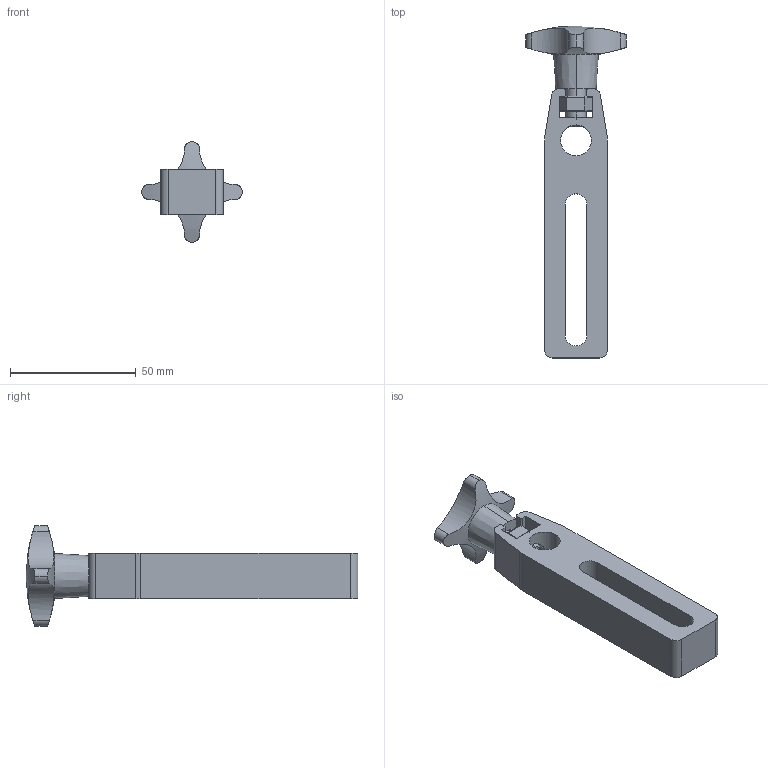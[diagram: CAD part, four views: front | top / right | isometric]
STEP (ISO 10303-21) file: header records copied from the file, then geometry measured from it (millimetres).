
FILE_DESCRIPTION (( 'STEP AP214' ), '1' );
FILE_NAME ('FABER - GH5 5.STEP', '2017-04-06T08:21:47', ( '' ), ( '' ), 'SwSTEP 2.0', 'SolidWorks 2016', '' );
FILE_SCHEMA (( 'AUTOMOTIVE_DESIGN' ));
Length unit declared in the file: millimetre
Products named in the file (4): FABER - GH5 5; Ecrou M8; POIGNEE_4BR_M8; GH5-5_ANO
Assembly tree (3 placements, depth 2):
  FABER - GH5 5
    GH5-5_ANO
    Ecrou M8
    POIGNEE_4BR_M8
Bounding box: 40 x 132 x 40 mm (x, y, z)
Volume: 43321 mm3; surface area: 15725.7 mm2
Topology: 3 solids, 3 shells, 83 faces, 215 edges, 137 vertices
Faces by surface type: cylinder 44, plane 33, cone 4, sphere 2
Entity records: 3803 total; most frequent: CARTESIAN_POINT 951, ORIENTED_EDGE 424, DIRECTION 392, EDGE_CURVE 212, VERTEX_POINT 136, AXIS2_PLACEMENT_3D 133, LINE 126, VECTOR 126
